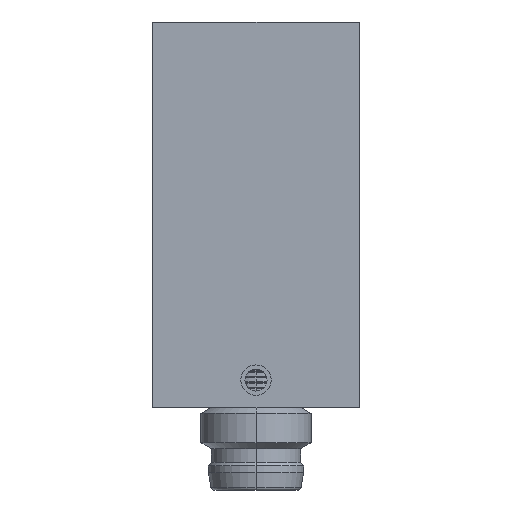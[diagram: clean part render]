
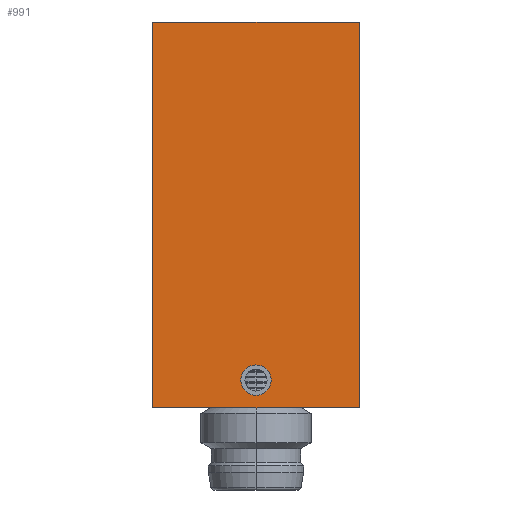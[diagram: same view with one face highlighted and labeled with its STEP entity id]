
A CAD part, left-side view. The second image highlights one B-rep face of the part: STEP entity #991.
In plain terms, the highlighted planar face has unit normal (-1, 0, 0).
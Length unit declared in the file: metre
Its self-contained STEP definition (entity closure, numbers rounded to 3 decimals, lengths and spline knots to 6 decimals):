
#991=ADVANCED_FACE('14:11447',(#1917,#1918),#1919,.T.);
#1917=FACE_OUTER_BOUND('',#2440,.T.);
#1918=FACE_BOUND('',#2441,.T.);
#1919=PLANE('',#2442);
#2440=EDGE_LOOP('',(#3356,#3357,#3358,#3359));
#2441=EDGE_LOOP('',(#3360,#3361));
#2442=AXIS2_PLACEMENT_3D('',#3362,#3363,#3364);
#3356=ORIENTED_EDGE('',*,*,#4364,.F.);
#3357=ORIENTED_EDGE('',*,*,#4365,.F.);
#3358=ORIENTED_EDGE('',*,*,#4366,.F.);
#3359=ORIENTED_EDGE('',*,*,#4367,.F.);
#3360=ORIENTED_EDGE('',*,*,#4362,.T.);
#3361=ORIENTED_EDGE('',*,*,#4260,.T.);
#3362=CARTESIAN_POINT('',(-0.1205,0.0055,0.0155));
#3363=DIRECTION('',(-1.0,0.,0.0));
#3364=DIRECTION('',(0.0,0.0,1.0));
#4260=EDGE_CURVE('14:11894',#4986,#4990,#4992,.T.);
#4362=EDGE_CURVE('14:11894',#4990,#4986,#5166,.T.);
#4364=EDGE_CURVE('14:11900',#5168,#5169,#5170,.T.);
#4365=EDGE_CURVE('14:11903',#5171,#5168,#5172,.T.);
#4366=EDGE_CURVE('14:11906',#5173,#5171,#5174,.T.);
#4367=EDGE_CURVE('14:11909',#5169,#5173,#5175,.T.);
#4986=VERTEX_POINT('',#5434);
#4990=VERTEX_POINT('',#5439);
#4992=CIRCLE('',#5442,0.0011);
#5166=CIRCLE('',#5670,0.0011);
#5168=VERTEX_POINT('',#5672);
#5169=VERTEX_POINT('',#5673);
#5170=LINE('',#5674,#5675);
#5171=VERTEX_POINT('',#5676);
#5172=LINE('',#5677,#5678);
#5173=VERTEX_POINT('',#5679);
#5174=LINE('',#5680,#5681);
#5175=LINE('',#5682,#5683);
#5434=CARTESIAN_POINT('',(-0.1205,0.0011,0.002));
#5439=CARTESIAN_POINT('',(-0.1205,-0.0011,0.002));
#5442=AXIS2_PLACEMENT_3D('',#5903,#5904,#5905);
#5670=AXIS2_PLACEMENT_3D('',#6101,#6102,#6103);
#5672=CARTESIAN_POINT('',(-0.1205,-0.0075,0.028));
#5673=CARTESIAN_POINT('',(-0.1205,-0.0075,0.0));
#5674=CARTESIAN_POINT('',(-0.1205,-0.0075,0.0));
#5675=VECTOR('',#6107,1.0);
#5676=CARTESIAN_POINT('',(-0.1205,0.0075,0.028));
#5677=CARTESIAN_POINT('',(-0.1205,-0.0075,0.028));
#5678=VECTOR('',#6108,1.0);
#5679=CARTESIAN_POINT('',(-0.1205,0.0075,0.0));
#5680=CARTESIAN_POINT('',(-0.1205,0.0075,0.028));
#5681=VECTOR('',#6109,1.0);
#5682=CARTESIAN_POINT('',(-0.1205,0.0075,0.0));
#5683=VECTOR('',#6110,1.0);
#5903=CARTESIAN_POINT('',(-0.1205,0.,0.002));
#5904=DIRECTION('',(1.0,0.,0.0));
#5905=DIRECTION('',(0.,1.0,0.0));
#6101=CARTESIAN_POINT('',(-0.1205,0.,0.002));
#6102=DIRECTION('',(1.0,0.,0.0));
#6103=DIRECTION('',(0.,1.0,0.0));
#6107=DIRECTION('',(0.,0.,-1.0));
#6108=DIRECTION('',(0.,-1.0,0.0));
#6109=DIRECTION('',(0.0,0.0,1.0));
#6110=DIRECTION('',(0.,1.0,0.0));
